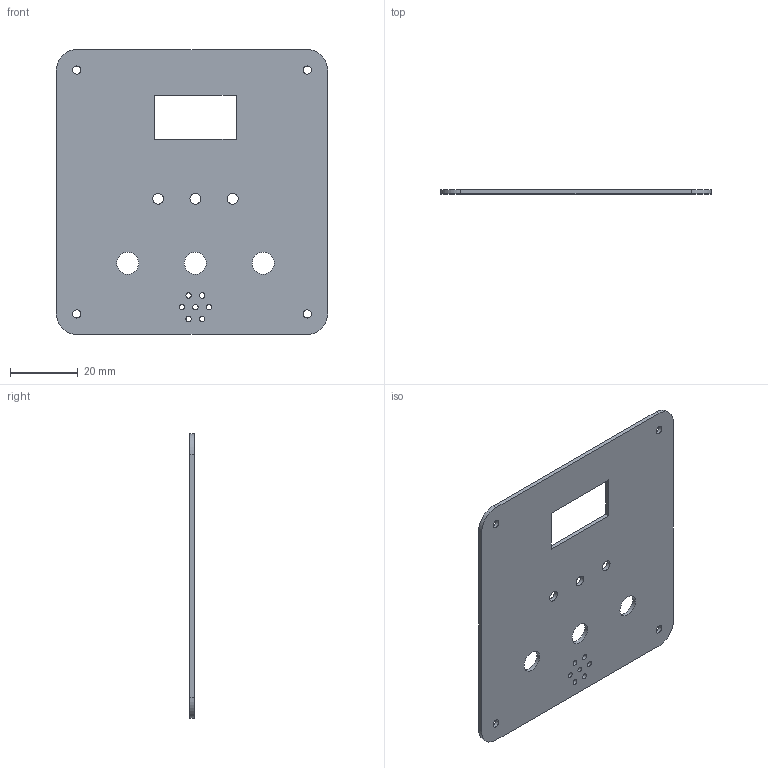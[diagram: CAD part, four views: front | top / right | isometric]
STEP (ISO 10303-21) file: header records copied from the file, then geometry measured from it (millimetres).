
FILE_DESCRIPTION(('Open CASCADE Model'),'2;1');
FILE_NAME('Open CASCADE Shape Model','2026-10-07T22:00:02',('Author'),( 'Open CASCADE'),'Open CASCADE STEP processor 7.9','Open CASCADE 7.9' ,'Unknown');
FILE_SCHEMA(('AUTOMOTIVE_DESIGN { 1 0 10303 214 1 1 1 1 }'));
Length unit declared in the file: millimetre
Products named in the file (1): Open CASCADE STEP translator 7.9 3
Bounding box: 80 x 1.2 x 84 mm (x, y, z)
Volume: 7465.5 mm3; surface area: 13100.7 mm2
Topology: 1 solids, 1 shells, 31 faces, 87 edges, 58 vertices
Faces by surface type: cylinder 21, plane 10
Full cylindrical faces by diameter (mm): 1.6 x7, 2.4 x4, 3.2 x3, 6.5 x3
Entity records: 2226 total; most frequent: CARTESIAN_POINT 379, DIRECTION 349, ORIENTED_EDGE 174, PCURVE 174, DEFINITIONAL_REPRESENTATION 174, LINE 161, VECTOR 161, EDGE_CURVE 87
